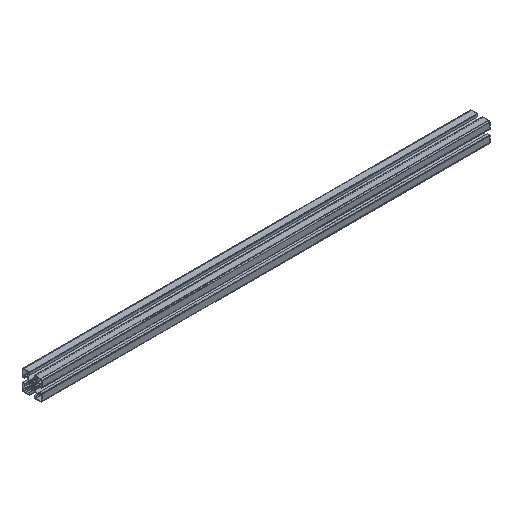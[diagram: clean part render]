
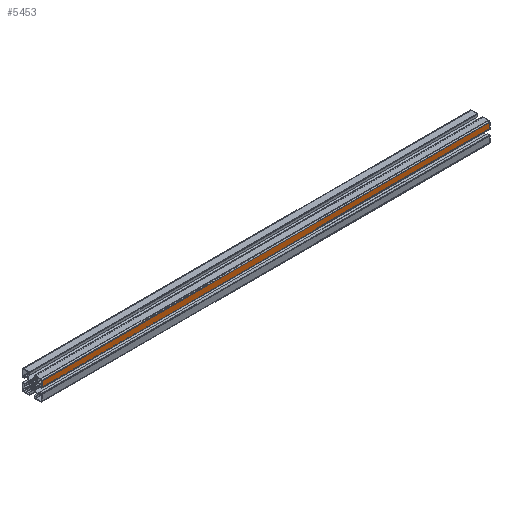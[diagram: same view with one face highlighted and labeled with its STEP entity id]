
A CAD part, isometric view. The second image highlights one B-rep face of the part: STEP entity #5453.
In plain terms, the highlighted planar face has unit normal (0, -1, 0).
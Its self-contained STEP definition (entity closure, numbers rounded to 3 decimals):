
#227 = ORIENTED_EDGE ( 'NONE', *, *, #3312, .T. ) ;
#372 = PLANE ( 'NONE',  #2198 ) ;
#512 = VECTOR ( 'NONE', #1882, 1000. ) ;
#742 = VERTEX_POINT ( 'NONE', #4915 ) ;
#801 = VECTOR ( 'NONE', #1676, 1000. ) ;
#995 = EDGE_CURVE ( 'NONE', #1013, #1771, #1448, .T. ) ;
#1013 = VERTEX_POINT ( 'NONE', #2577 ) ;
#1448 = LINE ( 'NONE', #4355, #801 ) ;
#1676 = DIRECTION ( 'NONE',  ( 1., 0., 0. ) ) ;
#1747 = CARTESIAN_POINT ( 'NONE',  ( 0., -22.5, 6.1 ) ) ;
#1771 = VERTEX_POINT ( 'NONE', #3124 ) ;
#1878 = VECTOR ( 'NONE', #2205, 1000. ) ;
#1882 = DIRECTION ( 'NONE',  ( 0., 0., -1. ) ) ;
#2007 = EDGE_CURVE ( 'NONE', #5449, #742, #2020, .T. ) ;
#2020 = LINE ( 'NONE', #1747, #1878 ) ;
#2045 = EDGE_LOOP ( 'NONE', ( #5383, #5720, #227, #3084 ) ) ;
#2198 = AXIS2_PLACEMENT_3D ( 'NONE', #3529, #2213, #5351 ) ;
#2205 = DIRECTION ( 'NONE',  ( 1., 0., 0. ) ) ;
#2213 = DIRECTION ( 'NONE',  ( 0., -1., 0. ) ) ;
#2296 = LINE ( 'NONE', #3141, #3478 ) ;
#2577 = CARTESIAN_POINT ( 'NONE',  ( 0., -22.5, 19.5 ) ) ;
#2785 = CARTESIAN_POINT ( 'NONE',  ( 0., -22.5, 19.5 ) ) ;
#2928 = LINE ( 'NONE', #2785, #512 ) ;
#3084 = ORIENTED_EDGE ( 'NONE', *, *, #2007, .T. ) ;
#3124 = CARTESIAN_POINT ( 'NONE',  ( 1000., -22.5, 19.5 ) ) ;
#3125 = DIRECTION ( 'NONE',  ( 0., 0., -1. ) ) ;
#3141 = CARTESIAN_POINT ( 'NONE',  ( 1000., -22.5, 19.5 ) ) ;
#3312 = EDGE_CURVE ( 'NONE', #1013, #5449, #2928, .T. ) ;
#3381 = FACE_OUTER_BOUND ( 'NONE', #2045, .T. ) ;
#3478 = VECTOR ( 'NONE', #3125, 1000. ) ;
#3529 = CARTESIAN_POINT ( 'NONE',  ( 0., -22.5, 19.5 ) ) ;
#4355 = CARTESIAN_POINT ( 'NONE',  ( 0., -22.5, 19.5 ) ) ;
#4551 = EDGE_CURVE ( 'NONE', #1771, #742, #2296, .T. ) ;
#4915 = CARTESIAN_POINT ( 'NONE',  ( 1000., -22.5, 6.1 ) ) ;
#5328 = CARTESIAN_POINT ( 'NONE',  ( 0., -22.5, 6.1 ) ) ;
#5351 = DIRECTION ( 'NONE',  ( 0., 0., -1. ) ) ;
#5383 = ORIENTED_EDGE ( 'NONE', *, *, #4551, .F. ) ;
#5449 = VERTEX_POINT ( 'NONE', #5328 ) ;
#5453 = ADVANCED_FACE ( 'NONE', ( #3381 ), #372, .T. ) ;
#5720 = ORIENTED_EDGE ( 'NONE', *, *, #995, .F. ) ;
